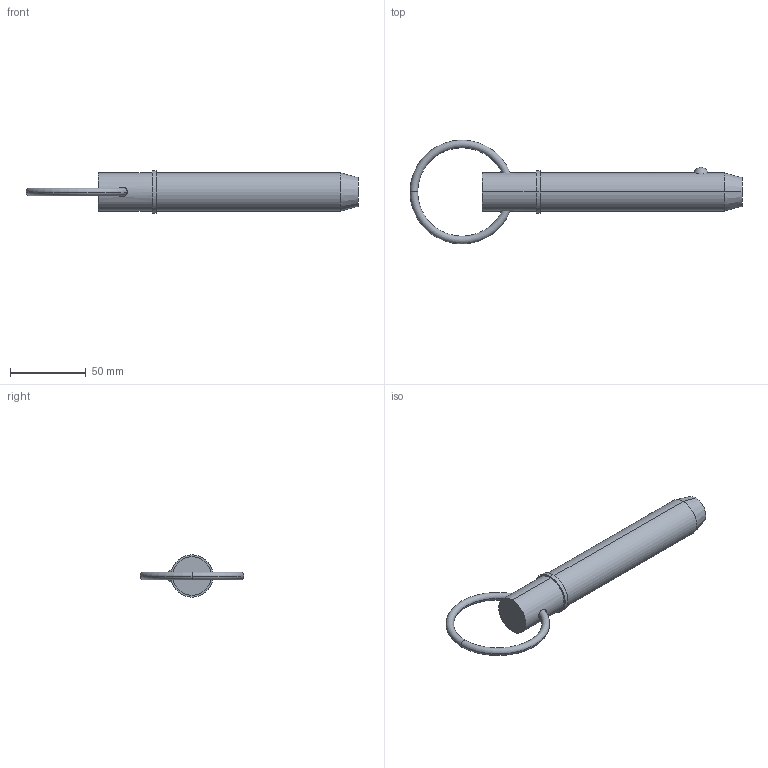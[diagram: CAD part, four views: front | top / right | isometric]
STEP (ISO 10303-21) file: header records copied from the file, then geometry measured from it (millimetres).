
FILE_DESCRIPTION (( 'STEP AP203' ), '1' );
FILE_NAME ('33014.W1040.step', '2024-11-04T08:39:44', ( '' ), ( '' ), 'SwSTEP 2.0', 'SolidWorks 2019', '' );
FILE_SCHEMA (( 'CONFIG_CONTROL_DESIGN' ));
Length unit declared in the file: millimetre
Products named in the file (3): Part1_33014.W1040; 33014.W1040; Part2_33014.W1040
Assembly tree (2 placements, depth 2):
  33014.W1040
    Part1_33014.W1040
    Part2_33014.W1040
Bounding box: 219.22 x 68.58 x 27.94 mm (x, y, z)
Volume: 89152.7 mm3; surface area: 18293.7 mm2
Topology: 2 solids, 2 shells, 22 faces, 43 edges, 26 vertices
Faces by surface type: torus 8, cylinder 6, plane 4, sphere 2, cone 2
Entity records: 1075 total; most frequent: CARTESIAN_POINT 298, DIRECTION 120, ORIENTED_EDGE 86, AXIS2_PLACEMENT_3D 56, EDGE_CURVE 43, CIRCLE 29, EDGE_LOOP 27, VERTEX_POINT 26
